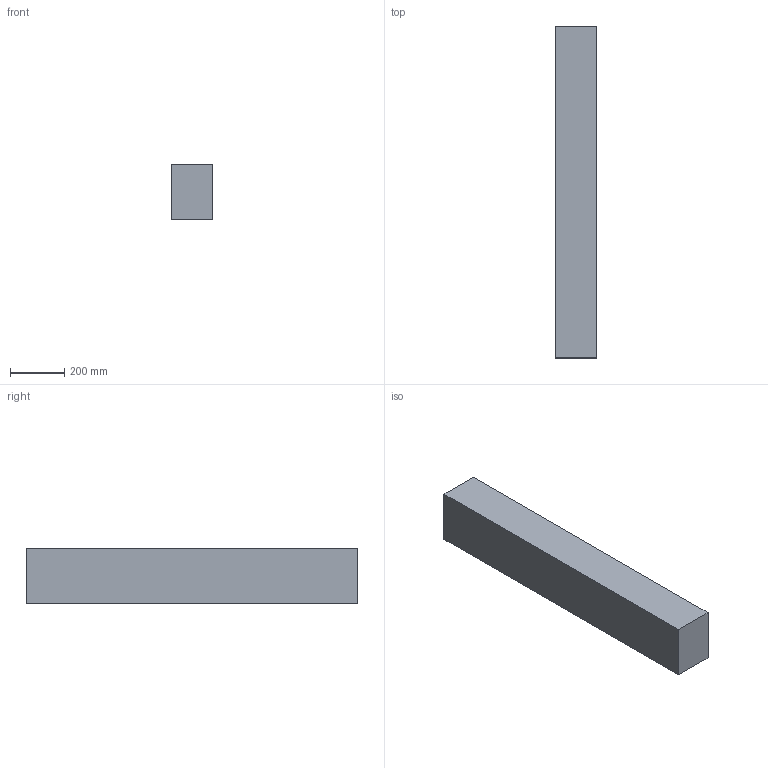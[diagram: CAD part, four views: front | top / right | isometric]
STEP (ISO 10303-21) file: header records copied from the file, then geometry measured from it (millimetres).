
FILE_DESCRIPTION(/* description */ (''),/* implementation_level */ '2;1');
FILE_NAME(/* name */ '6x8x48',/* time_stamp */ '2024-09-20T11:47:03-05:00',/* author */ (''),/* organization */ (''),/* preprocessor_version */ 'ST-DEVELOPER v19.2',/* originating_system */ 'Rhino 8.5',/* authorisation */ '');
FILE_SCHEMA (('CONFIG_CONTROL_DESIGN'));
Length unit declared in the file: inch
Products named in the file (1): Document
Bounding box: 152.4 x 1219.2 x 203.2 mm (x, y, z)
Volume: 37755795.5 mm3; surface area: 929030.4 mm2
Topology: 1 solids, 1 shells, 6 faces, 12 edges, 8 vertices
Faces by surface type: plane 6
Entity records: 226 total; most frequent: CARTESIAN_POINT 40, ORIENTED_EDGE 24, EDGE_CURVE 12, B_SPLINE_CURVE_WITH_KNOTS 12, DIRECTION 10, VERTEX_POINT 8, AXIS2_PLACEMENT_3D 8, ORGANIZATION 7
